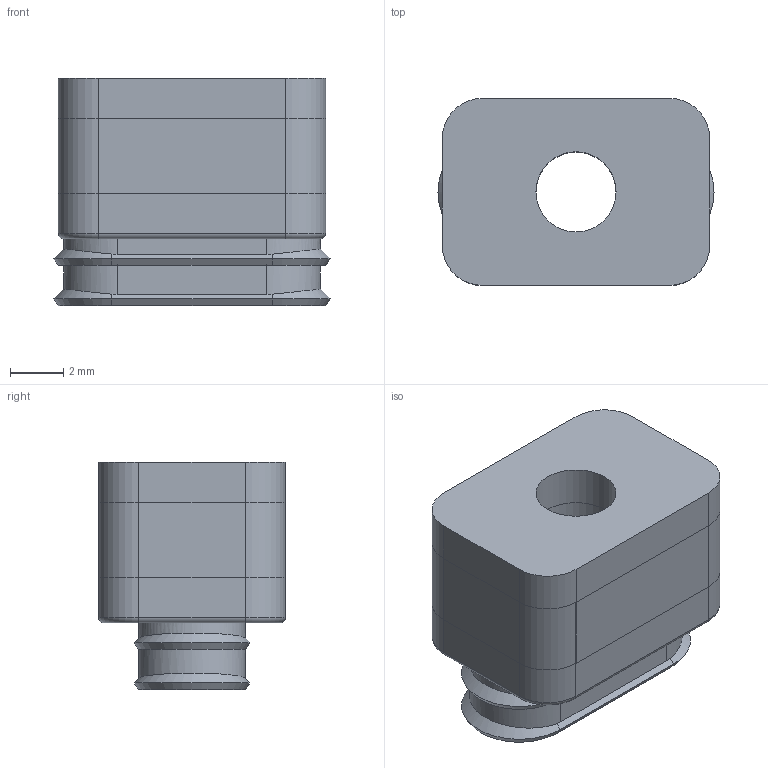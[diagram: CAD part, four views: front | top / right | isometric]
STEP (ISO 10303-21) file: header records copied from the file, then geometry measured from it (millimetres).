
FILE_DESCRIPTION( ( 'Unknown' ), '1' );
FILE_NAME( 'C:/Documents and Settings/Leeho/官帕 拳搁/VOU 4X10.stp', 'Unknown', ( 'Unknown' ), ( 'Unknown' ), 'PSStep 10.0', 'Unknown', ' ' );
FILE_SCHEMA( ( 'automotive_design' ) );
Length unit declared in the file: millimetre
Products named in the file (2): Assem1; 4X10_STP
Bounding box: 10.33 x 7 x 8.5 mm (x, y, z)
Surface area: 783.9 mm2
Topology: 2 solids, 2 shells, 66 faces, 158 edges, 96 vertices
Faces by surface type: plane 28, cylinder 22, cone 8, torus 8
Full cylindrical faces by diameter (mm): 3 x2
Entity records: 1307 total; most frequent: CARTESIAN_POINT 219, DIRECTION 180, ORIENTED_EDGE 156, EDGE_CURVE 78, AXIS2_PLACEMENT_3D 69, VERTEX_POINT 48, LINE 42, VECTOR 42
